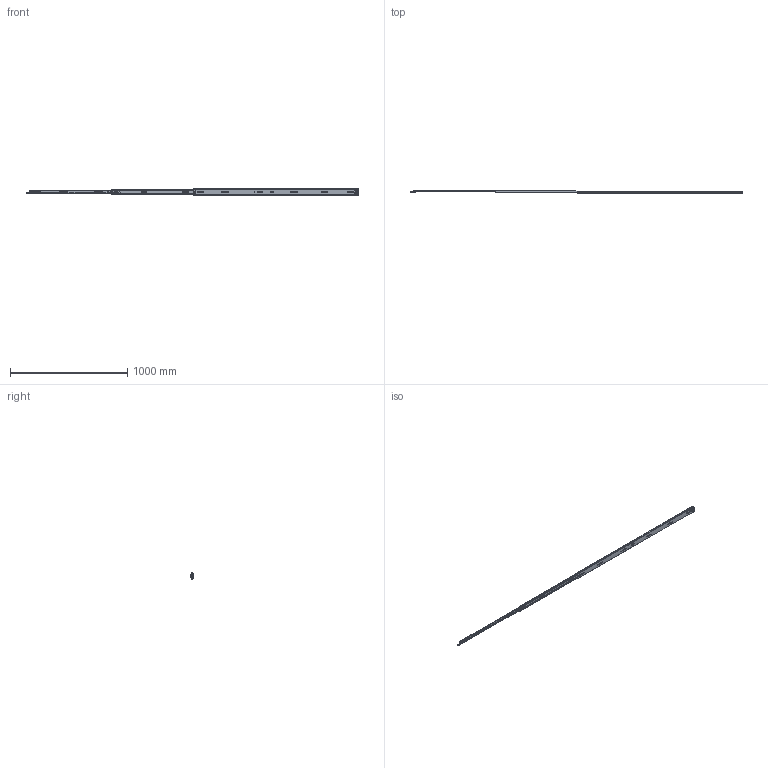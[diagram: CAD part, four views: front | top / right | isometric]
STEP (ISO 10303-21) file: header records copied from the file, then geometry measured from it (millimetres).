
FILE_DESCRIPTION((''),'2;1');
FILE_NAME('DG-57-22-56-ZUO_ASM','2023-01-05T',('jishu015'),(''),'PRO/ENGINEER BY PARAMETRIC TECHNOLOGY CORPORATION, 2010280','PRO/ENGINEER BY PARAMETRIC TECHNOLOGY CORPORATION, 2010280','');
FILE_SCHEMA(('CONFIG_CONTROL_DESIGN'));
Products named in the file (22): KP-57-01WEIKE-18______; 1057WEIJIAO______; WAIKE_____ASM; KP-57-01ZHONGGUI-18______; ZHONGGUIPEIJIAN-11____; ZHONGGUISUOKOU-11____; KP-57-01ZHONGGUI-18_______ASM; 1057XIAOZHUJIA______; 1057-5-6GANZHU______; 1057XIAOZHUJIA-14GE_______ASM; KP-57-01NEIGUI-18______; PJ-57-08____; DIAOPIAN-11____; 50XINSUOKOU-1____; TANHUANG____; 1053-3SBANJI122__; JIAO11__; KP-57-01NEIGUI-18_______ASM; 1053ZHUTIAO-175__________; 53-5-6GANZHU__________; 1053ZHUTIAO-175MM_____ASM; DG-57-22-56-ZUO_ASM
Assembly tree (150 placements, depth 3):
  DG-57-22-56-ZUO_ASM
    WAIKE_____ASM
      KP-57-01WEIKE-18______
      1057WEIJIAO______
    KP-57-01ZHONGGUI-18_______ASM
      KP-57-01ZHONGGUI-18______
      ZHONGGUIPEIJIAN-11____
      ZHONGGUISUOKOU-11____
    1057XIAOZHUJIA-14GE_______ASM
      1057XIAOZHUJIA______
      1057-5-6GANZHU______  x104
    KP-57-01NEIGUI-18_______ASM
      KP-57-01NEIGUI-18______
      PJ-57-08____
      DIAOPIAN-11____
      50XINSUOKOU-1____
      TANHUANG____
      1053-3SBANJI122__
      JIAO11__
    1053ZHUTIAO-175MM_____ASM  x2
      1053ZHUTIAO-175__________
      53-5-6GANZHU__________
Bounding box: 2826.92 x 19.05 x 57.69 mm (x, y, z)
Volume: 619183.5 mm3; surface area: 677162.2 mm2
Topology: 173 solids, 173 shells, 3811 faces, 11081 edges, 6863 vertices
Faces by surface type: cylinder 1694, plane 1480, sphere 323, bspline 166, cone 102, torus 23, extrusion 23
Entity records: 120363 total; most frequent: CARTESIAN_POINT 29275, ORIENTED_EDGE 19294, DIRECTION 18811, EDGE_CURVE 9647, AXIS2_PLACEMENT_3D 6507, VERTEX_POINT 6227, VECTOR 5797, LINE 5774
